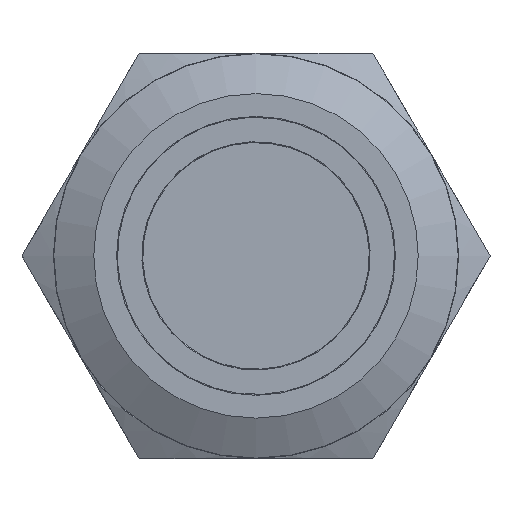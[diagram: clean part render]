
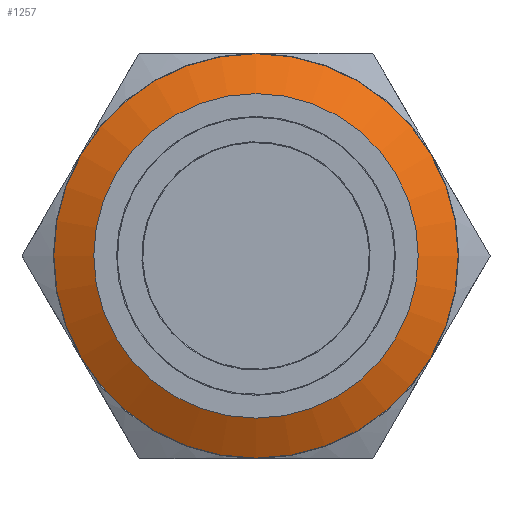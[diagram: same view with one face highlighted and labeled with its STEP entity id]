
A CAD part, top view. The second image highlights one B-rep face of the part: STEP entity #1257.
In plain terms, the highlighted conical face has half-angle 62.049 degrees and reference radius 12.4 mm.
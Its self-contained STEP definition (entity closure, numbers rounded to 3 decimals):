
#991=CONICAL_SURFACE('',#4336,12.4,62.049);
#1160=FACE_BOUND('',#1664,.T.);
#1161=FACE_BOUND('',#1665,.T.);
#1257=ADVANCED_FACE('',(#1160,#1161),#991,.T.);
#1664=EDGE_LOOP('',(#2561));
#1665=EDGE_LOOP('',(#2562));
#2561=ORIENTED_EDGE('',*,*,#3765,.F.);
#2562=ORIENTED_EDGE('',*,*,#3764,.F.);
#3447=VERTEX_POINT('',#6432);
#3448=VERTEX_POINT('',#6435);
#3764=EDGE_CURVE('',#3447,#3447,#4210,.T.);
#3765=EDGE_CURVE('',#3448,#3448,#4211,.T.);
#4210=CIRCLE('',#4316,12.4);
#4211=CIRCLE('',#4318,9.95);
#4316=AXIS2_PLACEMENT_3D('',#6431,#4629,#4630);
#4318=AXIS2_PLACEMENT_3D('',#6434,#4633,#4634);
#4336=AXIS2_PLACEMENT_3D('',#6467,#4670,#4671);
#4629=DIRECTION('',(0.,0.,-1.));
#4630=DIRECTION('',(-1.,0.,0.));
#4633=DIRECTION('',(0.,0.,1.));
#4634=DIRECTION('',(-1.,0.,0.));
#4670=DIRECTION('',(0.,0.,-1.));
#4671=DIRECTION('',(-1.,0.,0.));
#6431=CARTESIAN_POINT('',(0.,0.,10.));
#6432=CARTESIAN_POINT('',(-12.4,0.,10.));
#6434=CARTESIAN_POINT('',(0.,0.,11.3));
#6435=CARTESIAN_POINT('',(-9.95,0.,11.3));
#6467=CARTESIAN_POINT('',(0.,0.,10.));
